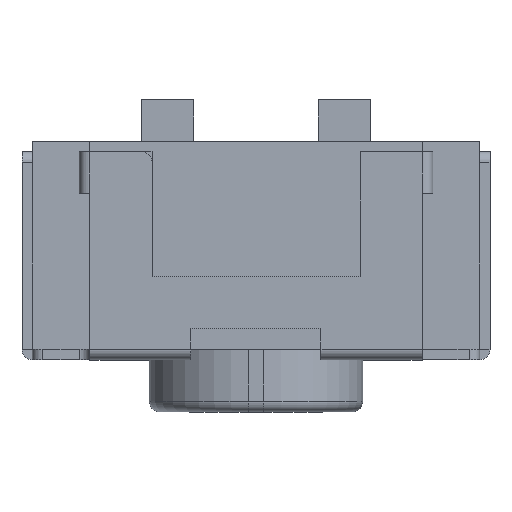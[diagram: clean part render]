
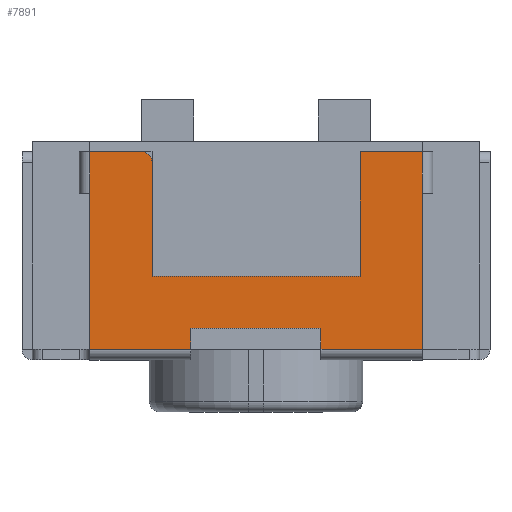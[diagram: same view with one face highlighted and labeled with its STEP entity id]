
A CAD part, top view. The second image highlights one B-rep face of the part: STEP entity #7891.
In plain terms, the highlighted planar face has unit normal (0, 0, 1).
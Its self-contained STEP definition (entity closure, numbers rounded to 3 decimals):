
#4682=CARTESIAN_POINT('',(-1.1,1.8,1.1));
#4683=DIRECTION('',(0.,0.,1.));
#4684=DIRECTION('',(1.,0.,0.));
#4685=AXIS2_PLACEMENT_3D('',#4682,#4683,#4684);
#4690=DIRECTION('',(0.,1.,0.));
#4691=VECTOR('',#4690,1.1);
#4692=CARTESIAN_POINT('',(-1.,0.7,1.1));
#4693=LINE('',#4692,#4691);
#4697=DIRECTION('',(-1.,0.,0.));
#4698=VECTOR('',#4697,2.);
#4699=CARTESIAN_POINT('',(1.,0.7,1.1));
#4700=LINE('',#4699,#4698);
#4704=DIRECTION('',(0.,-1.,0.));
#4705=VECTOR('',#4704,1.2);
#4706=CARTESIAN_POINT('',(1.,1.9,1.1));
#4707=LINE('',#4706,#4705);
#4711=DIRECTION('',(-1.,0.,0.));
#4712=VECTOR('',#4711,0.6);
#4713=CARTESIAN_POINT('',(1.6,1.9,1.1));
#4714=LINE('',#4713,#4712);
#4718=DIRECTION('',(0.,1.,0.));
#4719=VECTOR('',#4718,1.5);
#4720=CARTESIAN_POINT('',(1.6,0.,1.1));
#4721=LINE('',#4720,#4719);
#4725=DIRECTION('',(0.,1.,0.));
#4726=VECTOR('',#4725,0.2);
#4727=CARTESIAN_POINT('',(0.625,0.,1.1));
#4728=LINE('',#4727,#4726);
#4732=DIRECTION('',(1.,0.,0.));
#4733=VECTOR('',#4732,1.25);
#4734=CARTESIAN_POINT('',(-0.625,0.2,1.1));
#4735=LINE('',#4734,#4733);
#4739=DIRECTION('',(0.,1.,0.));
#4740=VECTOR('',#4739,0.2);
#4741=CARTESIAN_POINT('',(-0.625,0.,1.1));
#4742=LINE('',#4741,#4740);
#4746=DIRECTION('',(0.,-1.,0.));
#4747=VECTOR('',#4746,1.5);
#4748=CARTESIAN_POINT('',(-1.6,1.5,1.1));
#4749=LINE('',#4748,#4747);
#4753=DIRECTION('',(-1.,0.,0.));
#4754=VECTOR('',#4753,0.5);
#4755=CARTESIAN_POINT('',(-1.1,1.9,1.1));
#4756=LINE('',#4755,#4754);
#4810=DIRECTION('',(0.,-1.,0.));
#4811=VECTOR('',#4810,0.4);
#4812=CARTESIAN_POINT('',(1.6,1.9,1.1));
#4813=LINE('',#4812,#4811);
#4998=DIRECTION('',(1.,0.,0.));
#4999=VECTOR('',#4998,0.975);
#5000=CARTESIAN_POINT('',(0.625,0.,1.1));
#5001=LINE('',#5000,#4999);
#5028=DIRECTION('',(1.,0.,0.));
#5029=VECTOR('',#5028,0.975);
#5030=CARTESIAN_POINT('',(-1.6,0.,1.1));
#5031=LINE('',#5030,#5029);
#5286=DIRECTION('',(0.,1.,0.));
#5287=VECTOR('',#5286,0.4);
#5288=CARTESIAN_POINT('',(-1.6,1.5,1.1));
#5289=LINE('',#5288,#5287);
#5858=CARTESIAN_POINT('',(1.6,1.9,1.1));
#5859=CARTESIAN_POINT('',(1.,1.9,1.1));
#5860=VERTEX_POINT('',#5858);
#5861=VERTEX_POINT('',#5859);
#5862=CARTESIAN_POINT('',(1.,0.7,1.1));
#5863=VERTEX_POINT('',#5862);
#5864=CARTESIAN_POINT('',(-1.,0.7,1.1));
#5865=VERTEX_POINT('',#5864);
#5874=CARTESIAN_POINT('',(1.6,0.,1.1));
#5875=VERTEX_POINT('',#5874);
#5924=CARTESIAN_POINT('',(-0.625,0.2,1.1));
#5925=CARTESIAN_POINT('',(0.625,0.2,1.1));
#5926=VERTEX_POINT('',#5924);
#5927=VERTEX_POINT('',#5925);
#5928=CARTESIAN_POINT('',(-0.625,0.,1.1));
#5929=VERTEX_POINT('',#5928);
#5930=CARTESIAN_POINT('',(0.625,0.,1.1));
#5931=VERTEX_POINT('',#5930);
#5932=CARTESIAN_POINT('',(-1.6,0.,1.1));
#5933=VERTEX_POINT('',#5932);
#6010=CARTESIAN_POINT('',(-1.6,1.5,1.1));
#6011=VERTEX_POINT('',#6010);
#6020=CARTESIAN_POINT('',(-1.6,1.9,1.1));
#6021=VERTEX_POINT('',#6020);
#6024=CARTESIAN_POINT('',(1.6,1.5,1.1));
#6025=VERTEX_POINT('',#6024);
#6086=CARTESIAN_POINT('',(-1.,1.8,1.1));
#6087=CARTESIAN_POINT('',(-1.1,1.9,1.1));
#6088=VERTEX_POINT('',#6086);
#6089=VERTEX_POINT('',#6087);
#7856=CARTESIAN_POINT('',(0.84,-0.1,1.1));
#7857=DIRECTION('',(0.,0.,1.));
#7858=DIRECTION('',(1.,0.,0.));
#7859=AXIS2_PLACEMENT_3D('',#7856,#7857,#7858);
#7860=PLANE('',#7859);
#7861=ORIENTED_EDGE('',*,*,#7846,.F.);
#7863=ORIENTED_EDGE('',*,*,#7862,.F.);
#7865=ORIENTED_EDGE('',*,*,#7864,.F.);
#7867=ORIENTED_EDGE('',*,*,#7866,.F.);
#7869=ORIENTED_EDGE('',*,*,#7868,.F.);
#7871=ORIENTED_EDGE('',*,*,#7870,.T.);
#7873=ORIENTED_EDGE('',*,*,#7872,.F.);
#7875=ORIENTED_EDGE('',*,*,#7874,.F.);
#7877=ORIENTED_EDGE('',*,*,#7876,.T.);
#7879=ORIENTED_EDGE('',*,*,#7878,.F.);
#7881=ORIENTED_EDGE('',*,*,#7880,.F.);
#7883=ORIENTED_EDGE('',*,*,#7882,.F.);
#7884=ORIENTED_EDGE('',*,*,#7801,.F.);
#7886=ORIENTED_EDGE('',*,*,#7885,.T.);
#7888=ORIENTED_EDGE('',*,*,#7887,.F.);
#7889=EDGE_LOOP('',(#7861,#7863,#7865,#7867,#7869,#7871,#7873,#7875,#7877,#7879,
#7881,#7883,#7884,#7886,#7888));
#7890=FACE_OUTER_BOUND('',#7889,.F.);
#4686=CIRCLE('',#4685,0.1);
#7801=EDGE_CURVE('',#6011,#5933,#4749,.T.);
#7846=EDGE_CURVE('',#6088,#6089,#4686,.T.);
#7862=EDGE_CURVE('',#5865,#6088,#4693,.T.);
#7864=EDGE_CURVE('',#5863,#5865,#4700,.T.);
#7866=EDGE_CURVE('',#5861,#5863,#4707,.T.);
#7868=EDGE_CURVE('',#5860,#5861,#4714,.T.);
#7870=EDGE_CURVE('',#5860,#6025,#4813,.T.);
#7872=EDGE_CURVE('',#5875,#6025,#4721,.T.);
#7874=EDGE_CURVE('',#5931,#5875,#5001,.T.);
#7876=EDGE_CURVE('',#5931,#5927,#4728,.T.);
#7878=EDGE_CURVE('',#5926,#5927,#4735,.T.);
#7880=EDGE_CURVE('',#5929,#5926,#4742,.T.);
#7882=EDGE_CURVE('',#5933,#5929,#5031,.T.);
#7885=EDGE_CURVE('',#6011,#6021,#5289,.T.);
#7887=EDGE_CURVE('',#6089,#6021,#4756,.T.);
#7891=ADVANCED_FACE('',(#7890),#7860,.T.);
